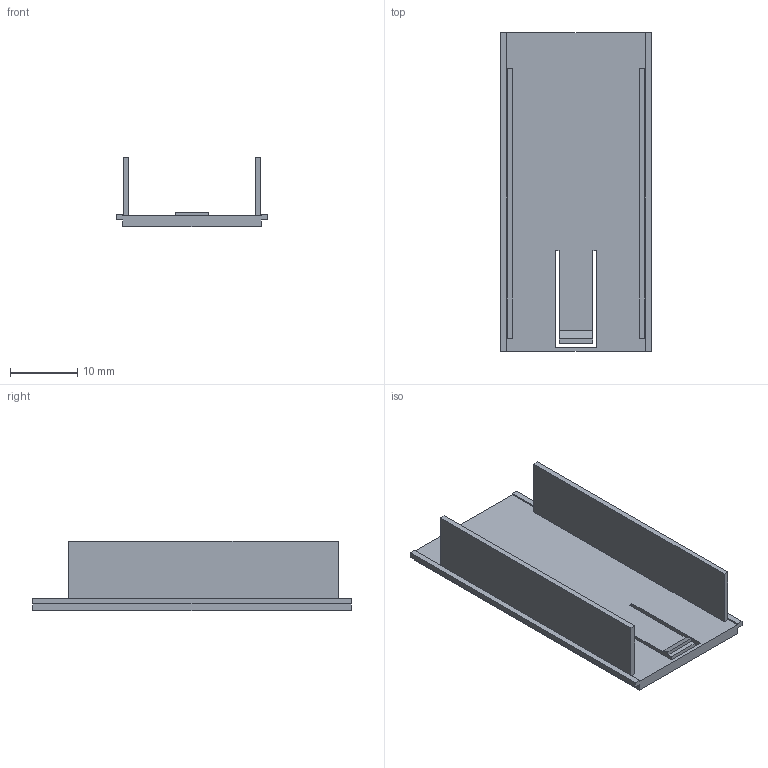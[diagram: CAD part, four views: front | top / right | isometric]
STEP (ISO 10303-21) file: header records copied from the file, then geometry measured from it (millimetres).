
FILE_DESCRIPTION(('Open CASCADE Model'),'2;1');
FILE_NAME('Open CASCADE Shape Model','2026-11-04T10:48:26',('Author'),( 'Open CASCADE'),'Open CASCADE STEP processor 7.9','Open CASCADE 7.9' ,'Unknown');
FILE_SCHEMA(('AUTOMOTIVE_DESIGN { 1 0 10303 214 1 1 1 1 }'));
Length unit declared in the file: millimetre
Products named in the file (1): Open CASCADE STEP translator 7.9 4
Bounding box: 22.4 x 47.3 x 10.3 mm (x, y, z)
Volume: 2148.4 mm3; surface area: 3912 mm2
Topology: 1 solids, 1 shells, 310 faces, 840 edges, 560 vertices
Faces by surface type: plane 202, extrusion 108
Entity records: 22488 total; most frequent: CARTESIAN_POINT 6481, DIRECTION 2494, VECTOR 2088, LINE 1980, ORIENTED_EDGE 1680, PCURVE 1680, DEFINITIONAL_REPRESENTATION 1680, EDGE_CURVE 840
